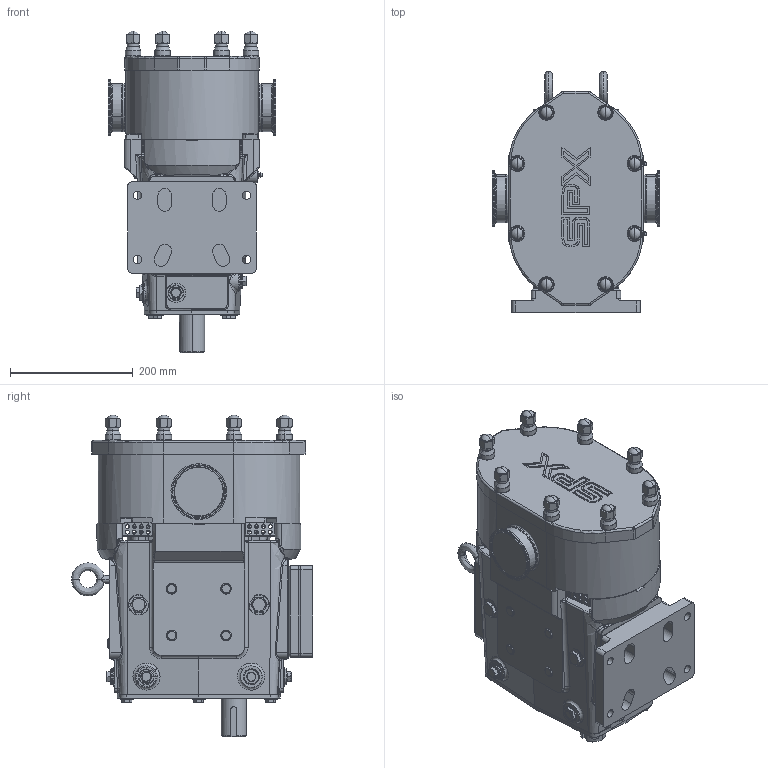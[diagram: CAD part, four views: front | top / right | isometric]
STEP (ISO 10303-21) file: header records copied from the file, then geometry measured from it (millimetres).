
FILE_DESCRIPTION (( 'STEP AP214' ), '1' );
FILE_NAME ('Model 130 Universal 3 Series Lower Drive.STEP', '2017-11-20T21:48:15', ( '' ), ( '' ), 'SwSTEP 2.0', 'SolidWorks 2014', '' );
FILE_SCHEMA (( 'AUTOMOTIVE_DESIGN' ));
Length unit declared in the file: inch
Products named in the file (1): Model 130 Universal 3 Series Lower Drive
Bounding box: 272.99 x 393.7 x 525.16 mm (x, y, z)
Volume: 22673560.7 mm3; surface area: 840262.4 mm2
Topology: 3 solids, 3 shells, 2368 faces, 6112 edges, 3810 vertices
Faces by surface type: plane 830, cylinder 745, torus 328, cone 273, bspline 174, sphere 18
Entity records: 82424 total; most frequent: CARTESIAN_POINT 25260, ORIENTED_EDGE 12168, DIRECTION 12100, EDGE_CURVE 6084, AXIS2_PLACEMENT_3D 4735, VERTEX_POINT 3810, LINE 2630, VECTOR 2630
